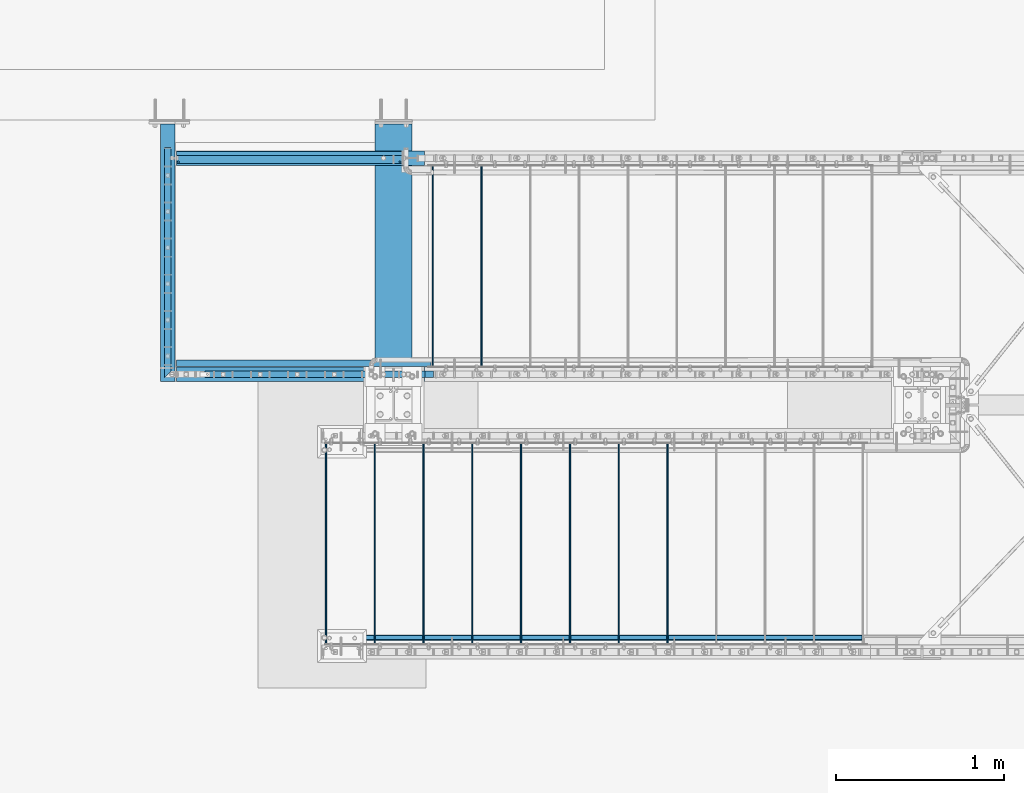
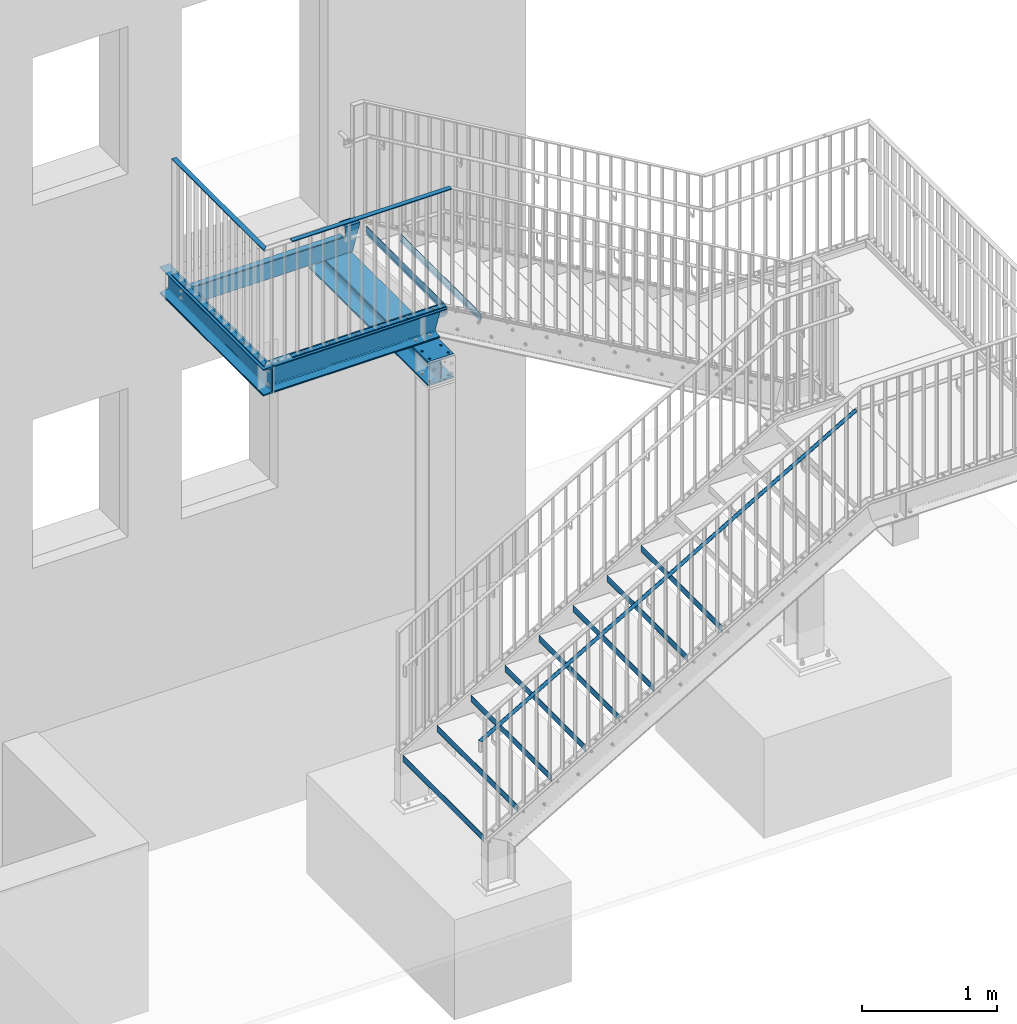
# One storey, part 12 of 145: 20 beams, 1 member, 49 openings.
"""IFC2X3 building model written with IfcOpenShell, lengths in millimetres."""

from ifc_helpers import new_model, entity, si_unit, converted_unit, frame, frame_2d, origin, origin_with_axes, origin_2d, origin_2d_with_axis, place, context, project, spatial, polyline, rectangle, circle, hollow_circle, i_section, l_section, u_section, outline, extrude, clip, halfspace, material, element, save


model = new_model("IFC2X3")

# Units and contexts
model_context = context("Model", 3, precision=1e-09, world=origin_with_axes())
ifc_project = project(units=[si_unit("LENGTHUNIT", "METRE", prefix="MILLI"), si_unit("AREAUNIT", "SQUARE_METRE"), si_unit("VOLUMEUNIT", "CUBIC_METRE"), converted_unit("PLANEANGLEUNIT", "DEGREE", entity("IfcPlaneAngleMeasure", 0.01745329), si_unit("PLANEANGLEUNIT", "RADIAN"), dimensions=[0, 0, 0, 0, 0, 0, 0])], contexts=[model_context])

# Site, building, storey
site_placement = place(None, origin_with_axes())
site = spatial("IfcSite", under=ifc_project, at=site_placement, Name="BZ1 Grund- und Mittelschule 85716 Unterschlei?heim", CompositionType="ELEMENT")
building_placement = place(site_placement, origin_with_axes())
building = spatial("IfcBuilding", under=site, at=building_placement, Name="Struktur 1", CompositionType="ELEMENT")
storey_placement = place(building_placement, origin_with_axes())
storey = spatial("IfcBuildingStorey", under=building, at=storey_placement, Name="Default Storey", CompositionType="ELEMENT", Elevation=0.0)

# Beam, openings
ifc_material_1 = material(Name="S235JR")
beam_1_placement = place(None, frame((15748.54372732, -1555.002, 3180.0000004), z_axis=(0.0, -1.0, 0.0), x_axis=(-1.0, 0.0, 0.0)))
beam_1 = element("IfcBeam", 1, at=beam_1_placement, inside=storey, material=ifc_material_1, Name="-", ObjectType="-", context=model_context, shape_type="SweptSolid", body=[
    extrude(u_section(Depth=240.0, FlangeWidth=85.0, WebThickness=9.5, FlangeThickness=13.0, FilletRadius=13.0, EdgeRadius=6.5, FlangeSlope=4.574, at=frame_2d((20.2, 0.0))), origin(), (0.0, 0.0, -1.0), 1530.001),
])
opening_1_placement = place(beam_1_placement, frame((-12.3, 0.0, -1336.501), z_axis=(1.0, 0.0, 0.0), x_axis=(0.0, 1.0, 0.0)))
element("IfcOpeningElement", 2, at=opening_1_placement, cuts=beam_1, ObjectType="Opening", context=model_context, shape_type="SweptSolid", body=[
    extrude(circle(Radius=9.001, at=frame_2d((0.0, 9.001), x_axis=(1.0, 0.0))), origin(), (0.0, 0.0, -1.0), 10.5),
])
opening_2_placement = place(beam_1_placement, frame((-12.3, 60.0, -1336.501), z_axis=(1.0, 0.0, 0.0), x_axis=(0.0, 1.0, 0.0)))
element("IfcOpeningElement", 3, at=opening_2_placement, cuts=beam_1, ObjectType="Opening", context=model_context, shape_type="SweptSolid", body=[
    extrude(circle(Radius=9.001, at=frame_2d((0.0, 9.001), x_axis=(1.0, 0.0))), origin(), (0.0, 0.0, -1.0), 10.5),
])
opening_3_placement = place(beam_1_placement, frame((-12.3, 0.0, -42.5), z_axis=(-1.0, 0.0, 0.0), x_axis=(0.0, 0.0, -1.0)))
element("IfcOpeningElement", 4, at=opening_3_placement, cuts=beam_1, ObjectType="Opening", context=model_context, shape_type="SweptSolid", body=[
    extrude(circle(Radius=9.001, at=frame_2d((0.0, 60.0), x_axis=(1.0, 0.0))), origin(), (0.0, 0.0, 1.0), 10.5),
])
opening_4_placement = place(beam_1_placement, frame((-12.3, 0.0, -42.5), z_axis=(-1.0, 0.0, 0.0), x_axis=(0.0, 0.0, -1.0)))
element("IfcOpeningElement", 5, at=opening_4_placement, cuts=beam_1, ObjectType="Opening", context=model_context, shape_type="SweptSolid", body=[
    extrude(circle(Radius=9.001, at=frame_2d((0.0, -60.0), x_axis=(1.0, 0.0))), origin(), (0.0, 0.0, 1.0), 10.5),
])
opening_5_placement = place(beam_1_placement, frame((20.2, -106.5, -1003.124515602), z_axis=(0.0, 1.0, 0.0), x_axis=(-1.0, 0.0, 0.0)))
element("IfcOpeningElement", 6, at=opening_5_placement, cuts=beam_1, ObjectType="Opening", context=model_context, shape_type="SweptSolid", body=[
    extrude(circle(Radius=7.001, at=frame_2d((0.0, -7.001), x_axis=(1.0, 0.0))), origin(), (0.0, 0.0, -1.0), 14.0),
])
opening_6_placement = place(beam_1_placement, frame((20.2, -106.5, -788.341182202), z_axis=(0.0, 1.0, 0.0), x_axis=(-1.0, 0.0, 0.0)))
element("IfcOpeningElement", 7, at=opening_6_placement, cuts=beam_1, ObjectType="Opening", context=model_context, shape_type="SweptSolid", body=[
    extrude(circle(Radius=7.001, at=frame_2d((0.0, -7.001), x_axis=(1.0, 0.0))), origin(), (0.0, 0.0, -1.0), 14.0),
])
opening_7_placement = place(beam_1_placement, frame((20.2, -106.5, -573.557848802), z_axis=(0.0, 1.0, 0.0), x_axis=(-1.0, 0.0, 0.0)))
element("IfcOpeningElement", 8, at=opening_7_placement, cuts=beam_1, ObjectType="Opening", context=model_context, shape_type="SweptSolid", body=[
    extrude(circle(Radius=7.001, at=frame_2d((0.0, -7.001), x_axis=(1.0, 0.0))), origin(), (0.0, 0.0, -1.0), 14.0),
])
opening_8_placement = place(beam_1_placement, frame((20.2, -106.5, -1217.907849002), z_axis=(0.0, 1.0, 0.0), x_axis=(-1.0, 0.0, 0.0)))
element("IfcOpeningElement", 9, at=opening_8_placement, cuts=beam_1, ObjectType="Opening", context=model_context, shape_type="SweptSolid", body=[
    extrude(circle(Radius=7.001, at=frame_2d((0.0, -7.001), x_axis=(1.0, 0.0))), origin(), (0.0, 0.0, -1.0), 14.0),
])
opening_9_placement = place(beam_1_placement, frame((20.2, -106.5, -358.774515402), z_axis=(0.0, 1.0, 0.0), x_axis=(-1.0, 0.0, 0.0)))
element("IfcOpeningElement", 10, at=opening_9_placement, cuts=beam_1, ObjectType="Opening", context=model_context, shape_type="SweptSolid", body=[
    extrude(circle(Radius=7.001, at=frame_2d((0.0, -7.001), x_axis=(1.0, 0.0))), origin(), (0.0, 0.0, -1.0), 14.0),
])
opening_10_placement = place(beam_1_placement, frame((20.2, -106.5, -143.991182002), z_axis=(0.0, 1.0, 0.0), x_axis=(-1.0, 0.0, 0.0)))
element("IfcOpeningElement", 11, at=opening_10_placement, cuts=beam_1, ObjectType="Opening", context=model_context, shape_type="SweptSolid", body=[
    extrude(circle(Radius=7.001, at=frame_2d((0.0, -7.001), x_axis=(1.0, 0.0))), origin(), (0.0, 0.0, -1.0), 14.0),
])

# Beam
beam_2_placement = place(None, frame((15728.34372732, -1541.346410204, 4346.0000004), z_axis=(0.0, -1.0, 0.0), x_axis=(0.0, 0.0, 1.0)))
element("IfcBeam", 12, at=beam_2_placement, inside=storey, material=ifc_material_1, Name="-", ObjectType="-", context=model_context, shape_type="Clipping", body=[
    clip(extrude(rectangle(XDim=8.0, YDim=40.0, at=origin_2d()), origin(), (0.0, 0.0, -1.0), 1376.345410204), halfspace(frame((-4346.0000004, 7107.921570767, 7079.07574635), z_axis=(0.0, 0.707106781, -0.707106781), x_axis=(0.0, 0.707106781, 0.707106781)), True)),
])

# Beam, openings
beam_3_placement = place(None, frame((15728.34372732, -1541.346410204, 3304.000000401), z_axis=(0.0, -1.0, 0.0), x_axis=(0.0, 0.0, 1.0)))
beam_3 = element("IfcBeam", 13, at=beam_3_placement, inside=storey, material=ifc_material_1, Name="-", ObjectType="-", context=model_context, shape_type="Clipping", body=[
    clip(extrude(rectangle(XDim=8.0, YDim=40.0, at=origin_2d()), origin(), (0.0, 0.0, -1.0), 1376.345410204), halfspace(frame((-3304.000000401, 7107.921570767, 7079.07574635), z_axis=(0.0, 0.707106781, -0.707106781), x_axis=(0.0, 0.707106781, 0.707106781)), True)),
])
opening_11_placement = place(beam_3_placement, frame((-4.5, 0.0, -1203.752259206), z_axis=(-1.0, 0.0, 0.0), x_axis=(0.0, -1.0, 0.0)))
element("IfcOpeningElement", 14, at=opening_11_placement, cuts=beam_3, ObjectType="Opening", context=model_context, shape_type="SweptSolid", body=[
    extrude(circle(Radius=7.501, at=frame_2d((0.0, -7.501), x_axis=(1.0, 0.0))), origin(), (0.0, 0.0, -1.0), 9.0),
])
opening_12_placement = place(beam_3_placement, frame((-4.5, 0.0, -988.968925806), z_axis=(-1.0, 0.0, 0.0), x_axis=(0.0, -1.0, 0.0)))
element("IfcOpeningElement", 15, at=opening_12_placement, cuts=beam_3, ObjectType="Opening", context=model_context, shape_type="SweptSolid", body=[
    extrude(circle(Radius=7.501, at=frame_2d((0.0, -7.501), x_axis=(1.0, 0.0))), origin(), (0.0, 0.0, -1.0), 9.0),
])
opening_13_placement = place(beam_3_placement, frame((-4.5, 0.0, -344.618925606), z_axis=(-1.0, 0.0, 0.0), x_axis=(0.0, -1.0, 0.0)))
element("IfcOpeningElement", 16, at=opening_13_placement, cuts=beam_3, ObjectType="Opening", context=model_context, shape_type="SweptSolid", body=[
    extrude(circle(Radius=7.501, at=frame_2d((0.0, -7.501), x_axis=(1.0, 0.0))), origin(), (0.0, 0.0, -1.0), 9.0),
])
opening_14_placement = place(beam_3_placement, frame((-4.5, 0.0, -774.185592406), z_axis=(-1.0, 0.0, 0.0), x_axis=(0.0, -1.0, 0.0)))
element("IfcOpeningElement", 17, at=opening_14_placement, cuts=beam_3, ObjectType="Opening", context=model_context, shape_type="SweptSolid", body=[
    extrude(circle(Radius=7.501, at=frame_2d((0.0, -7.501), x_axis=(1.0, 0.0))), origin(), (0.0, 0.0, -1.0), 9.0),
])
opening_15_placement = place(beam_3_placement, frame((-4.5, 0.0, -129.835592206), z_axis=(-1.0, 0.0, 0.0), x_axis=(0.0, -1.0, 0.0)))
element("IfcOpeningElement", 18, at=opening_15_placement, cuts=beam_3, ObjectType="Opening", context=model_context, shape_type="SweptSolid", body=[
    extrude(circle(Radius=7.501, at=frame_2d((0.0, -7.501), x_axis=(1.0, 0.0))), origin(), (0.0, 0.0, -1.0), 9.0),
])
opening_16_placement = place(beam_3_placement, frame((-4.5, 0.0, -559.402259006), z_axis=(-1.0, 0.0, 0.0), x_axis=(0.0, -1.0, 0.0)))
element("IfcOpeningElement", 19, at=opening_16_placement, cuts=beam_3, ObjectType="Opening", context=model_context, shape_type="SweptSolid", body=[
    extrude(circle(Radius=7.501, at=frame_2d((0.0, -7.501), x_axis=(1.0, 0.0))), origin(), (0.0, 0.0, -1.0), 9.0),
])

beam_4_placement = place(None, frame((17128.84572732, -235.502, 3206.9990004), z_axis=(1.0, 0.0, 0.0), x_axis=(0.0, 0.0, -1.0)))
beam_4 = element("IfcBeam", 20, at=beam_4_placement, inside=storey, material=ifc_material_1, Name="-", ObjectType="-", context=model_context, shape_type="SweptSolid", body=[
    extrude(rectangle(XDim=6.0, YDim=50.0, at=origin_2d()), origin(), (0.0, 0.0, -1.0), 1348.002),
])
opening_17_placement = place(beam_4_placement, frame((3.5, -30.0, -1348.002), z_axis=(-1.0, 0.0, 0.0), x_axis=(0.0, 0.0, 1.0)))
element("IfcOpeningElement", 21, at=opening_17_placement, cuts=beam_4, ObjectType="Opening", context=model_context, shape_type="SweptSolid", body=[
    extrude(circle(Radius=6.001, at=frame_2d((11.0, 16.0), x_axis=(1.0, 0.0))), origin(), (0.0, 0.0, 1.0), 7.0),
])
opening_18_placement = place(beam_4_placement, frame((3.5, -30.0, -21.0), z_axis=(-1.0, 0.0, 0.0), x_axis=(0.0, 0.0, 1.0)))
element("IfcOpeningElement", 22, at=opening_18_placement, cuts=beam_4, ObjectType="Opening", context=model_context, shape_type="SweptSolid", body=[
    extrude(circle(Radius=6.001, at=frame_2d((0.0, 16.0), x_axis=(1.0, 0.0))), origin(), (0.0, 0.0, 1.0), 7.0),
])

beam_5_placement = place(None, frame((17070.84472732, -25.0, 2950.0), z_axis=(0.0, 1.0, 0.0), x_axis=(1.0, 0.0, 0.0)))
beam_5 = element("IfcBeam", 23, at=beam_5_placement, inside=storey, material=ifc_material_1, Name="-", ObjectType="-", context=model_context, shape_type="SweptSolid", body=[
    extrude(i_section(OverallWidth=220.0, OverallDepth=220.0, WebThickness=9.5, FlangeThickness=16.0, FilletRadius=18.0, at=origin_2d()), origin(), (0.0, 0.0, -1.0), 1755.002),
])
opening_19_placement = place(beam_5_placement, frame((80.0, -110.5, -1714.001), z_axis=(0.0, -1.0, 0.0), x_axis=(1.0, 0.0, 0.0)))
element("IfcOpeningElement", 24, at=opening_19_placement, cuts=beam_5, ObjectType="Opening", context=model_context, shape_type="SweptSolid", body=[
    extrude(circle(Radius=11.001, at=frame_2d((0.0, -11.001), x_axis=(1.0, 0.0))), origin(), (0.0, 0.0, -1.0), 17.0),
])
opening_20_placement = place(beam_5_placement, frame((80.0, -110.5, -1604.001), z_axis=(0.0, -1.0, 0.0), x_axis=(1.0, 0.0, 0.0)))
element("IfcOpeningElement", 25, at=opening_20_placement, cuts=beam_5, ObjectType="Opening", context=model_context, shape_type="SweptSolid", body=[
    extrude(circle(Radius=11.001, at=frame_2d((0.0, -11.001), x_axis=(1.0, 0.0))), origin(), (0.0, 0.0, -1.0), 17.0),
])
opening_21_placement = place(beam_5_placement, frame((-80.0, -110.5, -1714.001), z_axis=(0.0, -1.0, 0.0), x_axis=(1.0, 0.0, 0.0)))
element("IfcOpeningElement", 26, at=opening_21_placement, cuts=beam_5, ObjectType="Opening", context=model_context, shape_type="SweptSolid", body=[
    extrude(circle(Radius=11.001, at=frame_2d((0.0, -11.001), x_axis=(1.0, 0.0))), origin(), (0.0, 0.0, -1.0), 17.0),
])
opening_22_placement = place(beam_5_placement, frame((-80.0, -110.5, -1604.001), z_axis=(0.0, -1.0, 0.0), x_axis=(1.0, 0.0, 0.0)))
element("IfcOpeningElement", 27, at=opening_22_placement, cuts=beam_5, ObjectType="Opening", context=model_context, shape_type="SweptSolid", body=[
    extrude(circle(Radius=11.001, at=frame_2d((0.0, -11.001), x_axis=(1.0, 0.0))), origin(), (0.0, 0.0, -1.0), 17.0),
])
opening_23_placement = place(beam_5_placement, frame((0.0, -93.5, -202.502), z_axis=(0.0, -1.0, 0.0), x_axis=(1.0, 0.0, 0.0)))
element("IfcOpeningElement", 28, at=opening_23_placement, cuts=beam_5, ObjectType="Opening", context=model_context, shape_type="SweptSolid", body=[
    extrude(circle(Radius=9.001, at=frame_2d((60.0, 0.0), x_axis=(1.0, 0.0))), origin(), (0.0, 0.0, 1.0), 17.0),
])
opening_24_placement = place(beam_5_placement, frame((0.0, -93.5, -202.502), z_axis=(0.0, -1.0, 0.0), x_axis=(1.0, 0.0, 0.0)))
element("IfcOpeningElement", 29, at=opening_24_placement, cuts=beam_5, ObjectType="Opening", context=model_context, shape_type="SweptSolid", body=[
    extrude(circle(Radius=9.001, at=frame_2d((-60.0, 0.0), x_axis=(1.0, 0.0))), origin(), (0.0, 0.0, 1.0), 17.0),
])
opening_25_placement = place(beam_5_placement, frame((0.0, -93.5, -1487.502), z_axis=(0.0, -1.0, 0.0), x_axis=(1.0, 0.0, 0.0)))
element("IfcOpeningElement", 30, at=opening_25_placement, cuts=beam_5, ObjectType="Opening", context=model_context, shape_type="SweptSolid", body=[
    extrude(circle(Radius=9.001, at=frame_2d((60.0, 0.0), x_axis=(1.0, 0.0))), origin(), (0.0, 0.0, 1.0), 17.0),
])
opening_26_placement = place(beam_5_placement, frame((0.0, -93.5, -1487.502), z_axis=(0.0, -1.0, 0.0), x_axis=(1.0, 0.0, 0.0)))
element("IfcOpeningElement", 31, at=opening_26_placement, cuts=beam_5, ObjectType="Opening", context=model_context, shape_type="SweptSolid", body=[
    extrude(circle(Radius=9.001, at=frame_2d((-60.0, 0.0), x_axis=(1.0, 0.0))), origin(), (0.0, 0.0, 1.0), 17.0),
])
opening_27_placement = place(beam_5_placement, frame((0.0, 110.5, -1670.002), z_axis=(0.0, -1.0, 0.0), x_axis=(0.0, 0.0, -1.0)))
element("IfcOpeningElement", 32, at=opening_27_placement, cuts=beam_5, ObjectType="Opening", context=model_context, shape_type="SweptSolid", body=[
    extrude(circle(Radius=11.001, at=frame_2d((55.0, 80.0), x_axis=(1.0, 0.0))), origin(), (0.0, 0.0, 1.0), 17.0),
])
opening_28_placement = place(beam_5_placement, frame((0.0, 110.5, -1670.002), z_axis=(0.0, -1.0, 0.0), x_axis=(0.0, 0.0, -1.0)))
element("IfcOpeningElement", 33, at=opening_28_placement, cuts=beam_5, ObjectType="Opening", context=model_context, shape_type="SweptSolid", body=[
    extrude(circle(Radius=11.001, at=frame_2d((-55.0, 80.0), x_axis=(1.0, 0.0))), origin(), (0.0, 0.0, 1.0), 17.0),
])
opening_29_placement = place(beam_5_placement, frame((0.0, 110.5, -1670.002), z_axis=(0.0, -1.0, 0.0), x_axis=(0.0, 0.0, -1.0)))
element("IfcOpeningElement", 34, at=opening_29_placement, cuts=beam_5, ObjectType="Opening", context=model_context, shape_type="SweptSolid", body=[
    extrude(circle(Radius=11.001, at=frame_2d((55.0, -80.0), x_axis=(1.0, 0.0))), origin(), (0.0, 0.0, 1.0), 17.0),
])
opening_30_placement = place(beam_5_placement, frame((0.0, 110.5, -1670.002), z_axis=(0.0, -1.0, 0.0), x_axis=(0.0, 0.0, -1.0)))
element("IfcOpeningElement", 35, at=opening_30_placement, cuts=beam_5, ObjectType="Opening", context=model_context, shape_type="SweptSolid", body=[
    extrude(circle(Radius=11.001, at=frame_2d((-55.0, -80.0), x_axis=(1.0, 0.0))), origin(), (0.0, 0.0, 1.0), 17.0),
])

# Beams
for number, where, z_axis, x_axis in (
    (36, (16954.545399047, -3117.002, -122.727271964), (0.0, -1.0, 0.0), (1.0, 0.0, 0.0)),
    (37, (16664.545399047, -3117.002, -291.3636356), (0.0, -1.0, 0.0), (1.0, 0.0, 0.0)),
    (38, (17244.545399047, -3117.002, 45.909091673), (0.0, -1.0, 0.0), (1.0, 0.0, 0.0)),
    (39, (17534.545399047, -3117.002, 214.545455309), (0.0, -1.0, 0.0), (1.0, 0.0, 0.0)),
    (40, (17824.545399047, -3117.002, 383.181818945), (0.0, -1.0, 0.0), (1.0, 0.0, 0.0)),
    (41, (18114.545399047, -3117.002, 551.818182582), (0.0, -1.0, 0.0), (1.0, 0.0, 0.0)),
    (42, (18404.545399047, -3117.002, 720.454546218), (0.0, -1.0, 0.0), (1.0, 0.0, 0.0)),
    (43, (18694.545399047, -3117.002, 889.090909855), (0.0, -1.0, 0.0), (1.0, 0.0, 0.0)),
    (44, (17597.1419848, -273.002, 3081.363636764), (0.0, 1.0, 0.0), (-1.0, 0.0, 0.0)),
):
    element("IfcBeam", number, at=place(None, frame(where, z_axis=z_axis, x_axis=x_axis)), inside=storey, material=ifc_material_1, Name="-", ObjectType="-", context=model_context, shape_type="SweptSolid", body=[
        extrude(outline(polyline([(0.0, 0.0), (0.0, -57.009618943), (7.5, -70.0), (9.232050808, -69.0), (2.0, -56.473720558), (2.0, 0.0), (0.0, 0.0)])), origin(), (0.0, 0.0, -1.0), 1194.0),
    ])
beam_6_placement = place(None, frame((17307.1419848, -271.002, 3250.0000004), z_axis=(0.0, 1.0, 0.0), x_axis=(-1.0, 0.0, 0.0)))
element("IfcBeam", 45, at=beam_6_placement, inside=storey, material=ifc_material_1, Name="-", ObjectType="-", context=model_context, shape_type="SweptSolid", body=[
    extrude(outline(polyline([(0.0, 0.0), (0.0, -57.009618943), (7.5, -70.0), (9.232050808, -69.0), (2.0, -56.473720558), (2.0, 0.0), (0.0, 0.0)])), origin(), (0.0, 0.0, -1.0), 1198.0),
])
beam_7_placement = place(None, frame((17292.1419848, -1455.802, 3198.8000004), z_axis=(1.0, 0.0, 0.0), x_axis=(0.0, 0.0, -1.0)))
element("IfcBeam", 46, at=beam_7_placement, inside=storey, material=ifc_material_1, Name="-", ObjectType="-", context=model_context, shape_type="SweptSolid", body=[
    extrude(l_section(Depth=40.0, Width=40.0, Thickness=4.0, FilletRadius=6.0, EdgeRadius=3.0, at=frame_2d((8.8, 8.8))), origin(), (0.0, 0.0, -1.0), 1511.29825748),
])

# Beam, openings
beam_8_placement = place(None, frame((17401.239973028, -247.702, 3180.0000004), z_axis=(1.0, 0.0, 0.0), x_axis=(0.0, 1.0, 0.0)))
beam_8 = element("IfcBeam", 47, at=beam_8_placement, inside=storey, material=ifc_material_1, Name="-", ObjectType="-", context=model_context, shape_type="Clipping", body=[
    clip(extrude(u_section(Depth=240.0, FlangeWidth=85.0, WebThickness=9.5, FlangeThickness=13.0, FilletRadius=13.0, EdgeRadius=6.5, FlangeSlope=4.574, at=frame_2d((20.2, 0.0))), origin(), (0.0, 0.0, -1.0), 1620.396245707), halfspace(frame((247.702, -7293.475003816, -2144.48561792), z_axis=(0.0, 0.260320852, -0.965522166), x_axis=(-1.0, 0.0, 0.0)), True)),
])
opening_31_placement = place(beam_8_placement, frame((162.8, 0.0, -178.042282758), z_axis=(-1.0, 0.0, 0.0), x_axis=(0.0, 0.0, 1.0)))
element("IfcOpeningElement", 48, at=opening_31_placement, cuts=beam_8, ObjectType="Opening", context=model_context, shape_type="SweptSolid", body=[
    extrude(outline(polyline([(-1711.744849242, 29.999), (-94.351962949, 29.999), (-94.351962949, 199.378427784), (-1711.744849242, 199.378427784), (-1711.744849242, 29.999)])), origin(), (0.0, 0.0, 1.0), 285.2),
])
opening_32_placement = place(beam_8_placement, frame((20.2, -120.5, -330.395245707), z_axis=(0.0, 1.0, 0.0), x_axis=(0.0, 0.0, 1.0)))
element("IfcOpeningElement", 49, at=opening_32_placement, cuts=beam_8, ObjectType="Opening", context=model_context, shape_type="SweptSolid", body=[
    extrude(circle(Radius=9.001, at=frame_2d((60.0, 0.0), x_axis=(1.0, 0.0))), origin(), (0.0, 0.0, 1.0), 14.0),
])
opening_33_placement = place(beam_8_placement, frame((20.2, -120.5, -330.395245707), z_axis=(0.0, 1.0, 0.0), x_axis=(0.0, 0.0, 1.0)))
element("IfcOpeningElement", 50, at=opening_33_placement, cuts=beam_8, ObjectType="Opening", context=model_context, shape_type="SweptSolid", body=[
    extrude(circle(Radius=9.001, at=frame_2d((-60.0, 0.0), x_axis=(1.0, 0.0))), origin(), (0.0, 0.0, 1.0), 14.0),
])
opening_34_placement = place(beam_8_placement, frame((-12.3, -85.001, -1577.896245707), z_axis=(-1.0, 0.0, 0.0), x_axis=(0.0, 0.0, 1.0)))
element("IfcOpeningElement", 51, at=opening_34_placement, cuts=beam_8, ObjectType="Opening", context=model_context, shape_type="SweptSolid", body=[
    extrude(circle(Radius=12.001, at=origin_2d_with_axis()), origin(), (0.0, 0.0, 1.0), 10.5),
])

beam_9_placement = place(None, frame((17401.239973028, -1492.302, 3180.0000004), z_axis=(1.0, 0.0, 0.0), x_axis=(0.0, -1.0, 0.0)))
beam_9 = element("IfcBeam", 52, at=beam_9_placement, inside=storey, material=ifc_material_1, Name="-", ObjectType="-", context=model_context, shape_type="Clipping", body=[
    clip(extrude(u_section(Depth=240.0, FlangeWidth=85.0, WebThickness=9.5, FlangeThickness=13.0, FilletRadius=13.0, EdgeRadius=6.5, FlangeSlope=4.574, at=frame_2d((20.2, 0.0))), origin(), (0.0, 0.0, -1.0), 1620.396245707), halfspace(frame((-1492.302, 7293.475003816, -2144.48561792), z_axis=(0.0, -0.260320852, -0.965522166), x_axis=(1.0, 0.0, 0.0)), True)),
])
opening_35_placement = place(beam_9_placement, frame((20.2, -106.5, -676.097482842), z_axis=(0.0, 1.0, 0.0), x_axis=(-1.0, 0.0, 0.0)))
element("IfcOpeningElement", 53, at=opening_35_placement, cuts=beam_9, ObjectType="Opening", context=model_context, shape_type="SweptSolid", body=[
    extrude(circle(Radius=7.001, at=frame_2d((0.0, -7.001), x_axis=(1.0, 0.0))), origin(), (0.0, 0.0, -1.0), 14.0),
])
opening_36_placement = place(beam_9_placement, frame((20.2, -106.5, -236.097482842), z_axis=(0.0, 1.0, 0.0), x_axis=(-1.0, 0.0, 0.0)))
element("IfcOpeningElement", 54, at=opening_36_placement, cuts=beam_9, ObjectType="Opening", context=model_context, shape_type="SweptSolid", body=[
    extrude(circle(Radius=7.001, at=frame_2d((0.0, -7.001), x_axis=(1.0, 0.0))), origin(), (0.0, 0.0, -1.0), 14.0),
])
opening_37_placement = place(beam_9_placement, frame((20.2, -106.5, -896.097482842), z_axis=(0.0, 1.0, 0.0), x_axis=(-1.0, 0.0, 0.0)))
element("IfcOpeningElement", 55, at=opening_37_placement, cuts=beam_9, ObjectType="Opening", context=model_context, shape_type="SweptSolid", body=[
    extrude(circle(Radius=7.001, at=frame_2d((0.0, -7.001), x_axis=(1.0, 0.0))), origin(), (0.0, 0.0, -1.0), 14.0),
])
opening_38_placement = place(beam_9_placement, frame((20.2, -106.5, -1336.097482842), z_axis=(0.0, 1.0, 0.0), x_axis=(-1.0, 0.0, 0.0)))
element("IfcOpeningElement", 56, at=opening_38_placement, cuts=beam_9, ObjectType="Opening", context=model_context, shape_type="SweptSolid", body=[
    extrude(circle(Radius=7.001, at=frame_2d((0.0, -7.001), x_axis=(1.0, 0.0))), origin(), (0.0, 0.0, -1.0), 14.0),
])
opening_39_placement = place(beam_9_placement, frame((20.2, -106.5, -456.097482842), z_axis=(0.0, 1.0, 0.0), x_axis=(-1.0, 0.0, 0.0)))
element("IfcOpeningElement", 57, at=opening_39_placement, cuts=beam_9, ObjectType="Opening", context=model_context, shape_type="SweptSolid", body=[
    extrude(circle(Radius=7.001, at=frame_2d((0.0, -7.001), x_axis=(1.0, 0.0))), origin(), (0.0, 0.0, -1.0), 14.0),
])
opening_40_placement = place(beam_9_placement, frame((20.2, -106.5, -1116.097482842), z_axis=(0.0, 1.0, 0.0), x_axis=(-1.0, 0.0, 0.0)))
element("IfcOpeningElement", 58, at=opening_40_placement, cuts=beam_9, ObjectType="Opening", context=model_context, shape_type="SweptSolid", body=[
    extrude(circle(Radius=7.001, at=frame_2d((0.0, -7.001), x_axis=(1.0, 0.0))), origin(), (0.0, 0.0, -1.0), 14.0),
])
opening_41_placement = place(beam_9_placement, frame((20.2, -106.5, -1556.097482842), z_axis=(0.0, 1.0, 0.0), x_axis=(-1.0, 0.0, 0.0)))
element("IfcOpeningElement", 59, at=opening_41_placement, cuts=beam_9, ObjectType="Opening", context=model_context, shape_type="SweptSolid", body=[
    extrude(circle(Radius=7.001, at=frame_2d((0.0, -7.001), x_axis=(1.0, 0.0))), origin(), (0.0, 0.0, -1.0), 14.0),
])
opening_42_placement = place(beam_9_placement, frame((20.2, 120.5, -330.395245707), z_axis=(0.0, -1.0, 0.0), x_axis=(0.0, 0.0, 1.0)))
element("IfcOpeningElement", 60, at=opening_42_placement, cuts=beam_9, ObjectType="Opening", context=model_context, shape_type="SweptSolid", body=[
    extrude(circle(Radius=9.001, at=frame_2d((60.0, 0.0), x_axis=(1.0, 0.0))), origin(), (0.0, 0.0, 1.0), 14.0),
])
opening_43_placement = place(beam_9_placement, frame((20.2, 120.5, -330.395245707), z_axis=(0.0, -1.0, 0.0), x_axis=(0.0, 0.0, 1.0)))
element("IfcOpeningElement", 61, at=opening_43_placement, cuts=beam_9, ObjectType="Opening", context=model_context, shape_type="SweptSolid", body=[
    extrude(circle(Radius=9.001, at=frame_2d((-60.0, 0.0), x_axis=(1.0, 0.0))), origin(), (0.0, 0.0, 1.0), 14.0),
])

# Member
ifc_material_2 = material(Name="1.4301")
member_placement = place(None, frame((16638.389854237, -3077.502, 526.075041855), z_axis=(-0.864466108, 0.0, -0.502691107), x_axis=(0.0, -1.0, 0.0)))
element("IfcMember", 62, at=member_placement, inside=storey, material=ifc_material_2, Name="-", ObjectType="-", context=model_context, shape_type="Clipping", body=[
    clip(clip(extrude(hollow_circle(Radius=15.0, WallThickness=2.0, at=origin_2d()), origin(), (0.0, 0.0, -1.0), 3747.044210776), halfspace(frame((-3077.502, 2755.280359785, -4467.941930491), z_axis=(0.0, 0.260320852, 0.965522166), x_axis=(1.0, 0.0, 0.0)), True)), halfspace(frame((-3077.502, 12284.371726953, 7042.462647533), z_axis=(0.0, 0.498652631, -0.866801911), x_axis=(-1.0, 0.0, 0.0)), True)),
])

# Beam, openings
beam_10_placement = place(None, frame((17277.754556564, -1512.502, 3304.000000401), z_axis=(1.0, 0.0, 0.0), x_axis=(0.0, 0.0, 1.0)))
beam_10 = element("IfcBeam", 63, at=beam_10_placement, inside=storey, material=ifc_material_1, Name="-", ObjectType="-", context=model_context, shape_type="Clipping", body=[
    clip(extrude(rectangle(XDim=8.0, YDim=40.0, at=origin_2d()), origin(), (0.0, 0.0, -1.0), 1328.613066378), halfspace(frame((-7417.475003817, -1512.502, -2021.000201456), z_axis=(0.260320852, 0.0, -0.965522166), x_axis=(0.0, 1.0, 0.0)), True)),
])
opening_44_placement = place(beam_10_placement, frame((-4.5, 0.0, -992.112066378), z_axis=(-1.0, 0.0, 0.0), x_axis=(0.0, -1.0, 0.0)))
element("IfcOpeningElement", 64, at=opening_44_placement, cuts=beam_10, ObjectType="Opening", context=model_context, shape_type="SweptSolid", body=[
    extrude(circle(Radius=7.501, at=frame_2d((0.0, -7.501), x_axis=(1.0, 0.0))), origin(), (0.0, 0.0, -1.0), 9.0),
])
opening_45_placement = place(beam_10_placement, frame((-4.5, 0.0, -552.112066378), z_axis=(-1.0, 0.0, 0.0), x_axis=(0.0, -1.0, 0.0)))
element("IfcOpeningElement", 65, at=opening_45_placement, cuts=beam_10, ObjectType="Opening", context=model_context, shape_type="SweptSolid", body=[
    extrude(circle(Radius=7.501, at=frame_2d((0.0, -7.501), x_axis=(1.0, 0.0))), origin(), (0.0, 0.0, -1.0), 9.0),
])
opening_46_placement = place(beam_10_placement, frame((-4.5, 0.0, -772.112066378), z_axis=(-1.0, 0.0, 0.0), x_axis=(0.0, -1.0, 0.0)))
element("IfcOpeningElement", 66, at=opening_46_placement, cuts=beam_10, ObjectType="Opening", context=model_context, shape_type="SweptSolid", body=[
    extrude(circle(Radius=7.501, at=frame_2d((0.0, -7.501), x_axis=(1.0, 0.0))), origin(), (0.0, 0.0, -1.0), 9.0),
])
opening_47_placement = place(beam_10_placement, frame((-4.5, 0.0, -1212.112066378), z_axis=(-1.0, 0.0, 0.0), x_axis=(0.0, -1.0, 0.0)))
element("IfcOpeningElement", 67, at=opening_47_placement, cuts=beam_10, ObjectType="Opening", context=model_context, shape_type="SweptSolid", body=[
    extrude(circle(Radius=7.501, at=frame_2d((0.0, -7.501), x_axis=(1.0, 0.0))), origin(), (0.0, 0.0, -1.0), 9.0),
])
opening_48_placement = place(beam_10_placement, frame((-4.5, 0.0, -112.112066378), z_axis=(-1.0, 0.0, 0.0), x_axis=(0.0, -1.0, 0.0)))
element("IfcOpeningElement", 68, at=opening_48_placement, cuts=beam_10, ObjectType="Opening", context=model_context, shape_type="SweptSolid", body=[
    extrude(circle(Radius=7.501, at=frame_2d((0.0, -7.501), x_axis=(1.0, 0.0))), origin(), (0.0, 0.0, -1.0), 9.0),
])
opening_49_placement = place(beam_10_placement, frame((-4.5, 0.0, -332.112066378), z_axis=(-1.0, 0.0, 0.0), x_axis=(0.0, -1.0, 0.0)))
element("IfcOpeningElement", 69, at=opening_49_placement, cuts=beam_10, ObjectType="Opening", context=model_context, shape_type="SweptSolid", body=[
    extrude(circle(Radius=7.501, at=frame_2d((0.0, -7.501), x_axis=(1.0, 0.0))), origin(), (0.0, 0.0, -1.0), 9.0),
])

# Beam
beam_11_placement = place(None, frame((17327.187919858, -1512.502, 4346.0000004), z_axis=(1.0, 0.0, 0.0), x_axis=(0.0, 0.0, 1.0)))
element("IfcBeam", 70, at=beam_11_placement, inside=storey, material=ifc_material_1, Name="-", ObjectType="-", context=model_context, shape_type="Clipping", body=[
    clip(extrude(rectangle(XDim=8.0, YDim=40.0, at=origin_2d()), origin(), (0.0, 0.0, -1.0), 1378.046429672), halfspace(frame((-8401.286701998, -1512.502, -2286.252216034), z_axis=(0.260320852, 0.0, -0.965522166), x_axis=(0.0, 1.0, 0.0)), True)),
])

save(model, "model.ifc")
